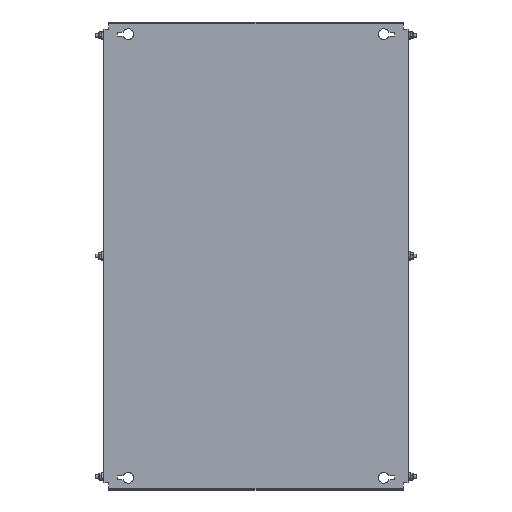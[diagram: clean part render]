
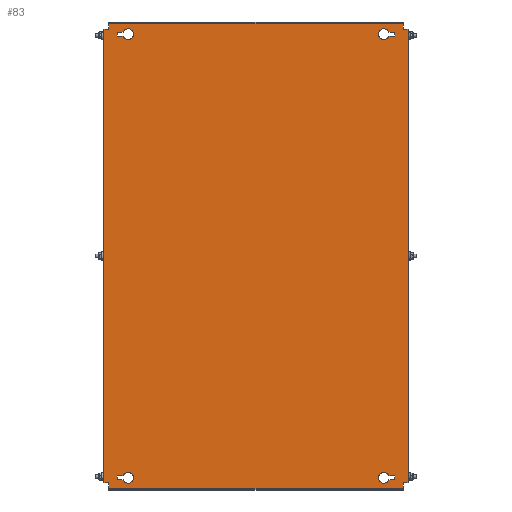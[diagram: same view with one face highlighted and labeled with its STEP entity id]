
A CAD part, top view. The second image highlights one B-rep face of the part: STEP entity #83.
In plain terms, the highlighted planar face has unit normal (0, 0, 1).
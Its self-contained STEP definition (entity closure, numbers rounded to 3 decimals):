
#83 = ADVANCED_FACE('',(#84,#119,#154,#316,#351),#386,.T.);
#84 = FACE_BOUND('',#85,.T.);
#85 = EDGE_LOOP('',(#86,#96,#104,#112));
#86 = ORIENTED_EDGE('',*,*,#87,.T.);
#87 = EDGE_CURVE('',#88,#90,#92,.T.);
#88 = VERTEX_POINT('',#89);
#89 = CARTESIAN_POINT('',(218.393,367.75,2.));
#90 = VERTEX_POINT('',#91);
#91 = CARTESIAN_POINT('',(228.,367.75,2.));
#92 = LINE('',#93,#94);
#93 = CARTESIAN_POINT('',(227.,367.75,2.));
#94 = VECTOR('',#95,1.);
#95 = DIRECTION('',(1.,0.,0.));
#96 = ORIENTED_EDGE('',*,*,#97,.T.);
#97 = EDGE_CURVE('',#90,#98,#100,.T.);
#98 = VERTEX_POINT('',#99);
#99 = CARTESIAN_POINT('',(228.,361.25,2.));
#100 = LINE('',#101,#102);
#101 = CARTESIAN_POINT('',(228.,367.75,2.));
#102 = VECTOR('',#103,1.);
#103 = DIRECTION('',(0.,-1.,0.));
#104 = ORIENTED_EDGE('',*,*,#105,.T.);
#105 = EDGE_CURVE('',#98,#106,#108,.T.);
#106 = VERTEX_POINT('',#107);
#107 = CARTESIAN_POINT('',(218.393,361.25,2.));
#108 = LINE('',#109,#110);
#109 = CARTESIAN_POINT('',(227.,361.25,2.));
#110 = VECTOR('',#111,1.);
#111 = DIRECTION('',(-1.,0.,0.));
#112 = ORIENTED_EDGE('',*,*,#113,.T.);
#113 = EDGE_CURVE('',#106,#88,#114,.T.);
#114 = CIRCLE('',#115,9.);
#115 = AXIS2_PLACEMENT_3D('',#116,#117,#118);
#116 = CARTESIAN_POINT('',(210.,364.5,2.));
#117 = DIRECTION('',(0.,0.,-1.));
#118 = DIRECTION('',(1.,0.,0.));
#119 = FACE_BOUND('',#120,.T.);
#120 = EDGE_LOOP('',(#121,#131,#139,#147));
#121 = ORIENTED_EDGE('',*,*,#122,.T.);
#122 = EDGE_CURVE('',#123,#125,#127,.T.);
#123 = VERTEX_POINT('',#124);
#124 = CARTESIAN_POINT('',(-218.393,-367.75,2.));
#125 = VERTEX_POINT('',#126);
#126 = CARTESIAN_POINT('',(-228.,-367.75,2.));
#127 = LINE('',#128,#129);
#128 = CARTESIAN_POINT('',(-227.,-367.75,2.));
#129 = VECTOR('',#130,1.);
#130 = DIRECTION('',(-1.,0.,0.));
#131 = ORIENTED_EDGE('',*,*,#132,.T.);
#132 = EDGE_CURVE('',#125,#133,#135,.T.);
#133 = VERTEX_POINT('',#134);
#134 = CARTESIAN_POINT('',(-228.,-361.25,2.));
#135 = LINE('',#136,#137);
#136 = CARTESIAN_POINT('',(-228.,-367.75,2.));
#137 = VECTOR('',#138,1.);
#138 = DIRECTION('',(0.,1.,0.));
#139 = ORIENTED_EDGE('',*,*,#140,.T.);
#140 = EDGE_CURVE('',#133,#141,#143,.T.);
#141 = VERTEX_POINT('',#142);
#142 = CARTESIAN_POINT('',(-218.393,-361.25,2.));
#143 = LINE('',#144,#145);
#144 = CARTESIAN_POINT('',(-227.,-361.25,2.));
#145 = VECTOR('',#146,1.);
#146 = DIRECTION('',(1.,-0.,-0.));
#147 = ORIENTED_EDGE('',*,*,#148,.T.);
#148 = EDGE_CURVE('',#141,#123,#149,.T.);
#149 = CIRCLE('',#150,9.);
#150 = AXIS2_PLACEMENT_3D('',#151,#152,#153);
#151 = CARTESIAN_POINT('',(-210.,-364.5,2.));
#152 = DIRECTION('',(0.,0.,-1.));
#153 = DIRECTION('',(-1.,0.,0.));
#154 = FACE_BOUND('',#155,.T.);
#155 = EDGE_LOOP('',(#156,#166,#174,#182,#190,#198,#206,#214,#222,#230,
    #238,#246,#254,#262,#270,#278,#286,#294,#302,#310));
#156 = ORIENTED_EDGE('',*,*,#157,.F.);
#157 = EDGE_CURVE('',#158,#160,#162,.T.);
#158 = VERTEX_POINT('',#159);
#159 = CARTESIAN_POINT('',(-247.4,372.5,2.));
#160 = VERTEX_POINT('',#161);
#161 = CARTESIAN_POINT('',(-242.,372.5,2.));
#162 = LINE('',#163,#164);
#163 = CARTESIAN_POINT('',(-248.,372.5,2.));
#164 = VECTOR('',#165,1.);
#165 = DIRECTION('',(1.,0.,-0.));
#166 = ORIENTED_EDGE('',*,*,#167,.T.);
#167 = EDGE_CURVE('',#158,#168,#170,.T.);
#168 = VERTEX_POINT('',#169);
#169 = CARTESIAN_POINT('',(-250.,372.5,2.));
#170 = LINE('',#171,#172);
#171 = CARTESIAN_POINT('',(-247.4,372.5,2.));
#172 = VECTOR('',#173,1.);
#173 = DIRECTION('',(-1.,0.,0.));
#174 = ORIENTED_EDGE('',*,*,#175,.F.);
#175 = EDGE_CURVE('',#176,#168,#178,.T.);
#176 = VERTEX_POINT('',#177);
#177 = CARTESIAN_POINT('',(-250.,-372.5,2.));
#178 = LINE('',#179,#180);
#179 = CARTESIAN_POINT('',(-250.,-382.5,2.));
#180 = VECTOR('',#181,1.);
#181 = DIRECTION('',(0.,1.,-0.));
#182 = ORIENTED_EDGE('',*,*,#183,.F.);
#183 = EDGE_CURVE('',#184,#176,#186,.T.);
#184 = VERTEX_POINT('',#185);
#185 = CARTESIAN_POINT('',(-247.4,-372.5,2.));
#186 = LINE('',#187,#188);
#187 = CARTESIAN_POINT('',(-242.,-372.5,2.));
#188 = VECTOR('',#189,1.);
#189 = DIRECTION('',(-1.,-0.,-0.));
#190 = ORIENTED_EDGE('',*,*,#191,.T.);
#191 = EDGE_CURVE('',#184,#192,#194,.T.);
#192 = VERTEX_POINT('',#193);
#193 = CARTESIAN_POINT('',(-242.,-372.5,2.));
#194 = LINE('',#195,#196);
#195 = CARTESIAN_POINT('',(-248.,-372.5,2.));
#196 = VECTOR('',#197,1.);
#197 = DIRECTION('',(1.,0.,-0.));
#198 = ORIENTED_EDGE('',*,*,#199,.T.);
#199 = EDGE_CURVE('',#192,#200,#202,.T.);
#200 = VERTEX_POINT('',#201);
#201 = CARTESIAN_POINT('',(-242.,-381.9,2.));
#202 = LINE('',#203,#204);
#203 = CARTESIAN_POINT('',(-242.,382.5,2.));
#204 = VECTOR('',#205,1.);
#205 = DIRECTION('',(0.,-1.,0.));
#206 = ORIENTED_EDGE('',*,*,#207,.T.);
#207 = EDGE_CURVE('',#200,#208,#210,.T.);
#208 = VERTEX_POINT('',#209);
#209 = CARTESIAN_POINT('',(-242.,-382.5,2.));
#210 = LINE('',#211,#212);
#211 = CARTESIAN_POINT('',(-242.,-381.9,2.));
#212 = VECTOR('',#213,1.);
#213 = DIRECTION('',(-0.,-1.,-0.));
#214 = ORIENTED_EDGE('',*,*,#215,.T.);
#215 = EDGE_CURVE('',#208,#216,#218,.T.);
#216 = VERTEX_POINT('',#217);
#217 = CARTESIAN_POINT('',(242.,-382.5,2.));
#218 = LINE('',#219,#220);
#219 = CARTESIAN_POINT('',(242.,-382.5,2.));
#220 = VECTOR('',#221,1.);
#221 = DIRECTION('',(1.,0.,0.));
#222 = ORIENTED_EDGE('',*,*,#223,.F.);
#223 = EDGE_CURVE('',#224,#216,#226,.T.);
#224 = VERTEX_POINT('',#225);
#225 = CARTESIAN_POINT('',(242.,-381.9,2.));
#226 = LINE('',#227,#228);
#227 = CARTESIAN_POINT('',(242.,-382.5,2.));
#228 = VECTOR('',#229,1.);
#229 = DIRECTION('',(0.,-1.,0.));
#230 = ORIENTED_EDGE('',*,*,#231,.T.);
#231 = EDGE_CURVE('',#224,#232,#234,.T.);
#232 = VERTEX_POINT('',#233);
#233 = CARTESIAN_POINT('',(242.,-372.5,2.));
#234 = LINE('',#235,#236);
#235 = CARTESIAN_POINT('',(242.,382.5,2.));
#236 = VECTOR('',#237,1.);
#237 = DIRECTION('',(0.,1.,-0.));
#238 = ORIENTED_EDGE('',*,*,#239,.F.);
#239 = EDGE_CURVE('',#240,#232,#242,.T.);
#240 = VERTEX_POINT('',#241);
#241 = CARTESIAN_POINT('',(247.4,-372.5,2.));
#242 = LINE('',#243,#244);
#243 = CARTESIAN_POINT('',(248.,-372.5,2.));
#244 = VECTOR('',#245,1.);
#245 = DIRECTION('',(-1.,0.,-0.));
#246 = ORIENTED_EDGE('',*,*,#247,.T.);
#247 = EDGE_CURVE('',#240,#248,#250,.T.);
#248 = VERTEX_POINT('',#249);
#249 = CARTESIAN_POINT('',(250.,-372.5,2.));
#250 = LINE('',#251,#252);
#251 = CARTESIAN_POINT('',(247.4,-372.5,2.));
#252 = VECTOR('',#253,1.);
#253 = DIRECTION('',(1.,-0.,0.));
#254 = ORIENTED_EDGE('',*,*,#255,.F.);
#255 = EDGE_CURVE('',#256,#248,#258,.T.);
#256 = VERTEX_POINT('',#257);
#257 = CARTESIAN_POINT('',(250.,372.5,2.));
#258 = LINE('',#259,#260);
#259 = CARTESIAN_POINT('',(250.,-382.5,2.));
#260 = VECTOR('',#261,1.);
#261 = DIRECTION('',(0.,-1.,-0.));
#262 = ORIENTED_EDGE('',*,*,#263,.F.);
#263 = EDGE_CURVE('',#264,#256,#266,.T.);
#264 = VERTEX_POINT('',#265);
#265 = CARTESIAN_POINT('',(247.4,372.5,2.));
#266 = LINE('',#267,#268);
#267 = CARTESIAN_POINT('',(-242.,372.5,2.));
#268 = VECTOR('',#269,1.);
#269 = DIRECTION('',(1.,-0.,0.));
#270 = ORIENTED_EDGE('',*,*,#271,.T.);
#271 = EDGE_CURVE('',#264,#272,#274,.T.);
#272 = VERTEX_POINT('',#273);
#273 = CARTESIAN_POINT('',(242.,372.5,2.));
#274 = LINE('',#275,#276);
#275 = CARTESIAN_POINT('',(248.,372.5,2.));
#276 = VECTOR('',#277,1.);
#277 = DIRECTION('',(-1.,0.,-0.));
#278 = ORIENTED_EDGE('',*,*,#279,.T.);
#279 = EDGE_CURVE('',#272,#280,#282,.T.);
#280 = VERTEX_POINT('',#281);
#281 = CARTESIAN_POINT('',(242.,381.9,2.));
#282 = LINE('',#283,#284);
#283 = CARTESIAN_POINT('',(242.,382.5,2.));
#284 = VECTOR('',#285,1.);
#285 = DIRECTION('',(0.,1.,-0.));
#286 = ORIENTED_EDGE('',*,*,#287,.T.);
#287 = EDGE_CURVE('',#280,#288,#290,.T.);
#288 = VERTEX_POINT('',#289);
#289 = CARTESIAN_POINT('',(242.,382.5,2.));
#290 = LINE('',#291,#292);
#291 = CARTESIAN_POINT('',(242.,381.9,2.));
#292 = VECTOR('',#293,1.);
#293 = DIRECTION('',(-0.,1.,-0.));
#294 = ORIENTED_EDGE('',*,*,#295,.T.);
#295 = EDGE_CURVE('',#288,#296,#298,.T.);
#296 = VERTEX_POINT('',#297);
#297 = CARTESIAN_POINT('',(-242.,382.5,2.));
#298 = LINE('',#299,#300);
#299 = CARTESIAN_POINT('',(-242.,382.5,2.));
#300 = VECTOR('',#301,1.);
#301 = DIRECTION('',(-1.,0.,0.));
#302 = ORIENTED_EDGE('',*,*,#303,.F.);
#303 = EDGE_CURVE('',#304,#296,#306,.T.);
#304 = VERTEX_POINT('',#305);
#305 = CARTESIAN_POINT('',(-242.,381.9,2.));
#306 = LINE('',#307,#308);
#307 = CARTESIAN_POINT('',(-242.,-382.5,2.));
#308 = VECTOR('',#309,1.);
#309 = DIRECTION('',(0.,1.,-0.));
#310 = ORIENTED_EDGE('',*,*,#311,.T.);
#311 = EDGE_CURVE('',#304,#160,#312,.T.);
#312 = LINE('',#313,#314);
#313 = CARTESIAN_POINT('',(-242.,382.5,2.));
#314 = VECTOR('',#315,1.);
#315 = DIRECTION('',(0.,-1.,0.));
#316 = FACE_BOUND('',#317,.T.);
#317 = EDGE_LOOP('',(#318,#328,#336,#344));
#318 = ORIENTED_EDGE('',*,*,#319,.F.);
#319 = EDGE_CURVE('',#320,#322,#324,.T.);
#320 = VERTEX_POINT('',#321);
#321 = CARTESIAN_POINT('',(228.,-361.25,2.));
#322 = VERTEX_POINT('',#323);
#323 = CARTESIAN_POINT('',(218.393,-361.25,2.));
#324 = LINE('',#325,#326);
#325 = CARTESIAN_POINT('',(218.393,-361.25,2.));
#326 = VECTOR('',#327,1.);
#327 = DIRECTION('',(-1.,0.,0.));
#328 = ORIENTED_EDGE('',*,*,#329,.F.);
#329 = EDGE_CURVE('',#330,#320,#332,.T.);
#330 = VERTEX_POINT('',#331);
#331 = CARTESIAN_POINT('',(228.,-367.75,2.));
#332 = LINE('',#333,#334);
#333 = CARTESIAN_POINT('',(228.,-361.25,2.));
#334 = VECTOR('',#335,1.);
#335 = DIRECTION('',(0.,1.,0.));
#336 = ORIENTED_EDGE('',*,*,#337,.F.);
#337 = EDGE_CURVE('',#338,#330,#340,.T.);
#338 = VERTEX_POINT('',#339);
#339 = CARTESIAN_POINT('',(218.393,-367.75,2.));
#340 = LINE('',#341,#342);
#341 = CARTESIAN_POINT('',(227.,-367.75,2.));
#342 = VECTOR('',#343,1.);
#343 = DIRECTION('',(1.,0.,0.));
#344 = ORIENTED_EDGE('',*,*,#345,.F.);
#345 = EDGE_CURVE('',#322,#338,#346,.T.);
#346 = CIRCLE('',#347,9.);
#347 = AXIS2_PLACEMENT_3D('',#348,#349,#350);
#348 = CARTESIAN_POINT('',(210.,-364.5,2.));
#349 = DIRECTION('',(0.,-0.,1.));
#350 = DIRECTION('',(1.,0.,0.));
#351 = FACE_BOUND('',#352,.T.);
#352 = EDGE_LOOP('',(#353,#363,#371,#379));
#353 = ORIENTED_EDGE('',*,*,#354,.F.);
#354 = EDGE_CURVE('',#355,#357,#359,.T.);
#355 = VERTEX_POINT('',#356);
#356 = CARTESIAN_POINT('',(-228.,361.25,2.));
#357 = VERTEX_POINT('',#358);
#358 = CARTESIAN_POINT('',(-218.393,361.25,2.));
#359 = LINE('',#360,#361);
#360 = CARTESIAN_POINT('',(-218.393,361.25,2.));
#361 = VECTOR('',#362,1.);
#362 = DIRECTION('',(1.,0.,0.));
#363 = ORIENTED_EDGE('',*,*,#364,.F.);
#364 = EDGE_CURVE('',#365,#355,#367,.T.);
#365 = VERTEX_POINT('',#366);
#366 = CARTESIAN_POINT('',(-228.,367.75,2.));
#367 = LINE('',#368,#369);
#368 = CARTESIAN_POINT('',(-228.,361.25,2.));
#369 = VECTOR('',#370,1.);
#370 = DIRECTION('',(0.,-1.,0.));
#371 = ORIENTED_EDGE('',*,*,#372,.F.);
#372 = EDGE_CURVE('',#373,#365,#375,.T.);
#373 = VERTEX_POINT('',#374);
#374 = CARTESIAN_POINT('',(-218.393,367.75,2.));
#375 = LINE('',#376,#377);
#376 = CARTESIAN_POINT('',(-227.,367.75,2.));
#377 = VECTOR('',#378,1.);
#378 = DIRECTION('',(-1.,0.,0.));
#379 = ORIENTED_EDGE('',*,*,#380,.F.);
#380 = EDGE_CURVE('',#357,#373,#381,.T.);
#381 = CIRCLE('',#382,9.);
#382 = AXIS2_PLACEMENT_3D('',#383,#384,#385);
#383 = CARTESIAN_POINT('',(-210.,364.5,2.));
#384 = DIRECTION('',(0.,-0.,1.));
#385 = DIRECTION('',(-1.,0.,0.));
#386 = PLANE('',#387);
#387 = AXIS2_PLACEMENT_3D('',#388,#389,#390);
#388 = CARTESIAN_POINT('',(-242.,-382.5,2.));
#389 = DIRECTION('',(-0.,0.,1.));
#390 = DIRECTION('',(1.,0.,0.));
